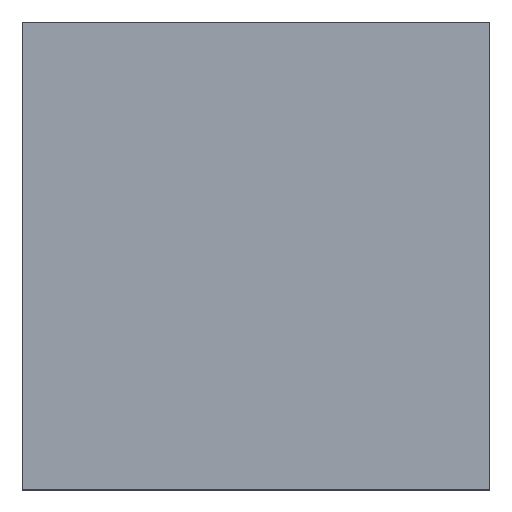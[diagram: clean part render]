
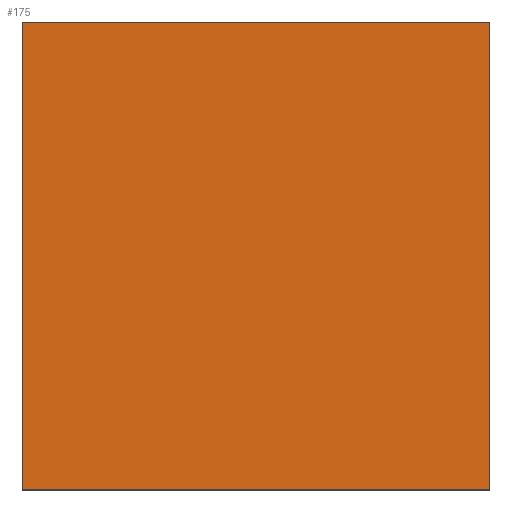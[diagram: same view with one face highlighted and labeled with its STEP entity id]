
A CAD part, top view. The second image highlights one B-rep face of the part: STEP entity #175.
In plain terms, the highlighted planar face has unit normal (0, 0, 1).
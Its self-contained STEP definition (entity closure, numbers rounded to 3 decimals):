
#46 = VERTEX_POINT('',#47);
#47 = CARTESIAN_POINT('',(-0.72,-0.72,0.625));
#62 = VERTEX_POINT('',#63);
#63 = CARTESIAN_POINT('',(-0.72,0.72,0.625));
#69 = EDGE_CURVE('',#46,#62,#70,.T.);
#70 = LINE('',#71,#72);
#71 = CARTESIAN_POINT('',(-0.72,-0.72,0.625));
#72 = VECTOR('',#73,1.);
#73 = DIRECTION('',(-0.,1.,0.));
#86 = VERTEX_POINT('',#87);
#87 = CARTESIAN_POINT('',(0.72,-0.72,0.625));
#102 = VERTEX_POINT('',#103);
#103 = CARTESIAN_POINT('',(0.72,0.72,0.625));
#109 = EDGE_CURVE('',#86,#102,#110,.T.);
#110 = LINE('',#111,#112);
#111 = CARTESIAN_POINT('',(0.72,-0.72,0.625));
#112 = VECTOR('',#113,1.);
#113 = DIRECTION('',(-0.,1.,0.));
#130 = EDGE_CURVE('',#46,#86,#131,.T.);
#131 = LINE('',#132,#133);
#132 = CARTESIAN_POINT('',(-0.72,-0.72,0.625));
#133 = VECTOR('',#134,1.);
#134 = DIRECTION('',(1.,0.,-0.));
#152 = EDGE_CURVE('',#62,#102,#153,.T.);
#153 = LINE('',#154,#155);
#154 = CARTESIAN_POINT('',(-0.72,0.72,0.625));
#155 = VECTOR('',#156,1.);
#156 = DIRECTION('',(1.,0.,-0.));
#175 = ADVANCED_FACE('',(#176),#182,.T.);
#176 = FACE_BOUND('',#177,.T.);
#177 = EDGE_LOOP('',(#178,#179,#180,#181));
#178 = ORIENTED_EDGE('',*,*,#69,.F.);
#179 = ORIENTED_EDGE('',*,*,#130,.T.);
#180 = ORIENTED_EDGE('',*,*,#109,.T.);
#181 = ORIENTED_EDGE('',*,*,#152,.F.);
#182 = PLANE('',#183);
#183 = AXIS2_PLACEMENT_3D('',#184,#185,#186);
#184 = CARTESIAN_POINT('',(-0.72,-0.72,0.625));
#185 = DIRECTION('',(0.,0.,1.));
#186 = DIRECTION('',(1.,0.,-0.));
